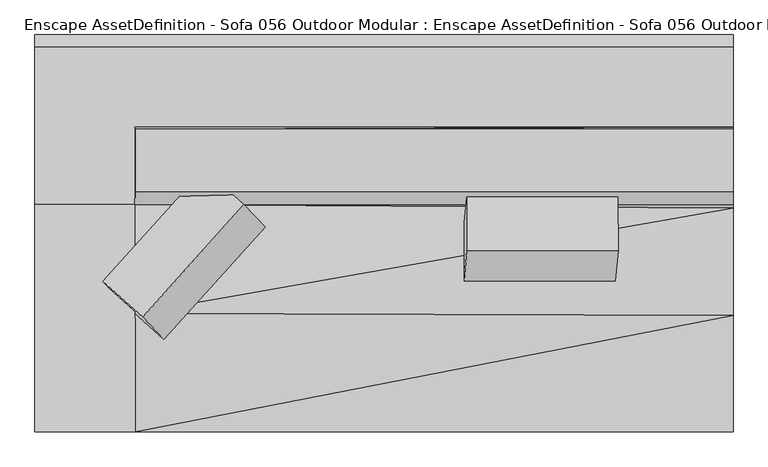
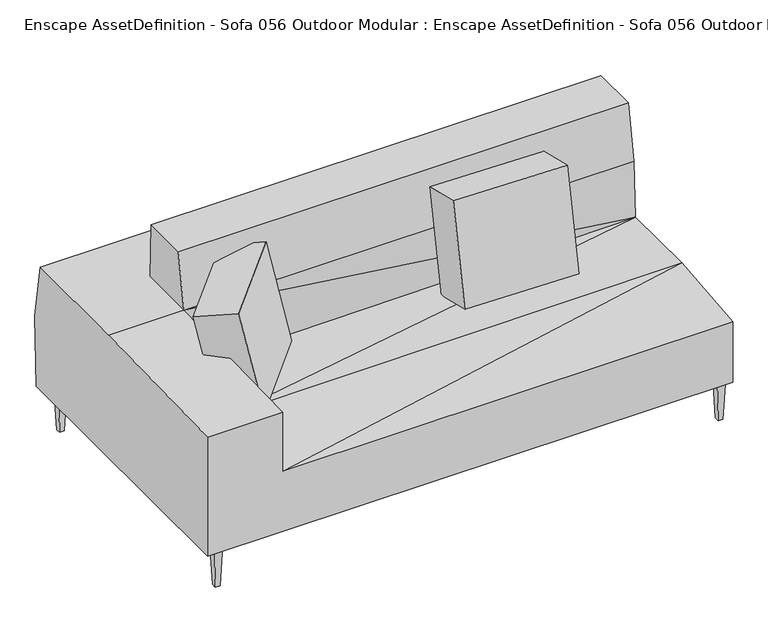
"""IFC4 building model written with IfcOpenShell, lengths in millimetres: geographic element geometry, Enscape AssetDefinition - Sofa 056 Outdoor Modular : Enscape AssetDefinition - Sofa 056 Outdoor Modular."""

from ifc_helpers import new_model, si_unit, origin, place, context, project, spatial, triangles, source, transform, mapped, element, save


def enscape_assetdefinition_sofa_056_outdoor_modular_enscape_4c990bfc(model_context):
    return source(origin(), model_context, "Body", "Tessellation", [
        triangles([(1077.49317, -607.986581, 172.9710736), (-764.4739042, -607.986581, 431.7268092), (1077.49317, 605.262147, 172.9710736), (1077.49317, -249.3578718, 472.4326095), (1077.49317, -607.986581, 434.788977), (-764.6126312, -243.2522851, 459.1667404), (-764.5629976, -607.9865084, 687.3795547), (-764.7407484, 93.3756685, 444.7478531), (1077.49317, 81.6349789, 467.4313159), (-1072.8786987, 605.262147, 172.9710736), (-1072.8786987, -607.986581, 172.9710736), (1077.49317, 615.9551353, 467.4313159), (1077.49317, 133.0335767, 932.7055687), (1077.49317, 331.7289522, 703.4626574), (1077.49317, 93.3756231, 703.4626574), (1077.49317, 324.8817321, 932.7055687), (1077.49317, 577.8821686, 703.4626574), (-764.6425713, 332.1499658, 703.4625847), (-764.7407484, 93.3756685, 703.4625847), (-1072.8786987, 577.5208898, 703.4625847), (-1072.8786987, 93.3756685, 703.4625847), (-1072.8786987, -607.986581, 687.3795547), (-1072.8786987, 615.955208, 467.4313159), (-764.3849562, 133.0336221, 932.705496), (-764.3849562, 324.8818048, 932.7055687), (249.2286645, -143.3562479, 495.571168), (722.4889669, 116.4803993, 857.2618452), (714.5272436, 21.3833605, 448.2150833), (715.2724016, -143.3562479, 486.5000284), (256.4452299, 116.4803993, 866.3329485), (248.4834884, 21.3833605, 457.2862229), (257.190406, -48.2592227, 904.6178209), (723.2341249, -48.2592227, 895.5467176), (-551.954318, 202.2171627, 843.839554), (-863.8173317, -144.1039039, 852.91073), (-798.47757, -213.6565081, 443.8639318), (-486.614738, 132.6645495, 434.7928285), (-740.8991804, -253.7891057, 891.1955297), (-363.696623, 22.9793364, 473.0777009), (-675.559564, -323.3417098, 482.1488405), (-429.0363121, 92.531961, 882.1244265), (1037.479624, -574.5255784, 0.0), (1056.7195107, -574.5255784, 0.0), (1063.761232, -581.7919227, 179.7984366), (1030.4379753, -581.7919227, 179.7984366), (1056.7195107, -554.6715214, 0.0), (1037.479624, -554.6715214, 0.0), (1063.761232, -547.4051771, 179.7984366), (1030.4379753, -547.4051771, 179.7984366), (1037.479624, 530.4129004, 0.0), (1063.761232, 523.1465198, 179.7984366), (1056.7195107, 530.4129004, 0.0), (1056.7195107, 550.266921, 0.0), (1030.4379753, 557.533338, 179.7984366), (1063.761232, 557.533338, 179.7984366), (1037.479624, 550.266921, 0.0), (1030.4379753, 523.1465198, 179.7984366), (-1002.2122999, -574.5255784, 0.0), (-995.1705786, -581.7919227, 179.7984366), (-1028.4939079, -581.7919227, 179.7984366), (-1002.2122999, -554.6715214, 0.0), (-1021.4521866, -574.5255784, 0.0), (-1028.4939079, -547.4051771, 179.7984366), (-995.1705786, -547.4051771, 179.7984366), (-1021.4521866, -554.6715214, 0.0), (-1002.2122999, 550.266921, 0.0), (-1002.2122999, 530.4129004, 0.0), (-995.1705786, 523.1465198, 179.7984366), (-1021.4521866, 530.4129004, 0.0), (-1021.4521866, 550.266921, 0.0), (-1028.4939079, 523.1465198, 179.7984366), (-995.1705786, 557.533338, 179.7984366), (-1028.4939079, 557.533338, 179.7984366)], [[70, 71, 73], [71, 72, 73], [71, 68, 72], [67, 72, 68], [66, 70, 73], [67, 66, 72], [66, 73, 72], [70, 69, 71], [69, 67, 68], [69, 70, 66], [69, 68, 71], [69, 66, 67], [65, 60, 63], [60, 64, 63], [60, 59, 64], [58, 64, 59], [61, 65, 63], [58, 61, 64], [61, 63, 64], [65, 62, 60], [62, 58, 59], [62, 65, 61], [62, 59, 60], [62, 61, 58], [56, 57, 54], [57, 55, 54], [57, 51, 55], [52, 55, 51], [53, 56, 54], [52, 53, 55], [53, 54, 55], [56, 50, 57], [50, 52, 51], [50, 56, 53], [50, 51, 57], [50, 53, 52], [47, 45, 49], [45, 48, 49], [45, 44, 48], [43, 48, 44], [46, 47, 49], [43, 46, 48], [46, 49, 48], [47, 42, 45], [42, 43, 44], [42, 47, 46], [42, 44, 45], [42, 46, 43], [35, 40, 38], [40, 41, 38], [40, 39, 41], [37, 41, 39], [34, 35, 38], [37, 34, 41], [34, 38, 41], [35, 36, 40], [36, 37, 39], [36, 35, 34], [36, 39, 40], [36, 34, 37], [30, 26, 32], [26, 33, 32], [26, 29, 33], [28, 33, 29], [27, 30, 32], [28, 27, 33], [27, 32, 33], [30, 31, 26], [31, 28, 29], [31, 30, 27], [31, 29, 26], [31, 27, 28], [13, 16, 24], [16, 25, 24], [19, 24, 25], [24, 19, 13], [19, 7, 8], [22, 7, 19], [7, 22, 11], [11, 22, 23], [22, 21, 23], [21, 22, 19], [21, 19, 20], [23, 21, 20], [19, 18, 20], [18, 19, 25], [20, 18, 17], [18, 14, 17], [25, 16, 14], [18, 25, 14], [16, 13, 14], [19, 15, 13], [13, 15, 14], [20, 17, 12], [14, 15, 12], [12, 17, 14], [23, 20, 12], [10, 23, 12], [10, 11, 23], [3, 10, 12], [19, 8, 9], [15, 9, 12], [15, 19, 9], [3, 12, 9], [7, 6, 8], [8, 6, 9], [7, 2, 6], [2, 7, 11], [3, 9, 4], [6, 4, 9], [6, 2, 4], [2, 5, 4], [10, 3, 1], [1, 5, 2], [1, 3, 4], [11, 10, 1], [11, 1, 2], [1, 4, 5]]),
    ])


if __name__ == "__main__":
    model = new_model("IFC4")
    model_context = context("Model", 3, world=origin())
    ifc_project = project(units=[si_unit("LENGTHUNIT", "METRE", prefix="MILLI")], contexts=[model_context])
    site = spatial("IfcSite", under=ifc_project)
    building = spatial("IfcBuilding", under=site)
    placement = place(None, origin())
    enscape_assetdefinition_sofa_056_outdoor_modular_enscape_shape = enscape_assetdefinition_sofa_056_outdoor_modular_enscape_4c990bfc(model_context)
    element("IfcGeographicElement", 1, ObjectType="Enscape AssetDefinition - Sofa 056 Outdoor Modular : Enscape AssetDefinition - Sofa 056 Outdoor Modular", at=placement, inside=building, context=model_context, shape_type="MappedRepresentation", body=[
        mapped(enscape_assetdefinition_sofa_056_outdoor_modular_enscape_shape, transform((0.0, 0.0, 0.0), x_axis=(1.0, 0.0, 0.0), y_axis=(0.0, 1.0, 0.0), z_axis=(0.0, 0.0, 1.0))),
    ])
    save(model, "model.ifc")
